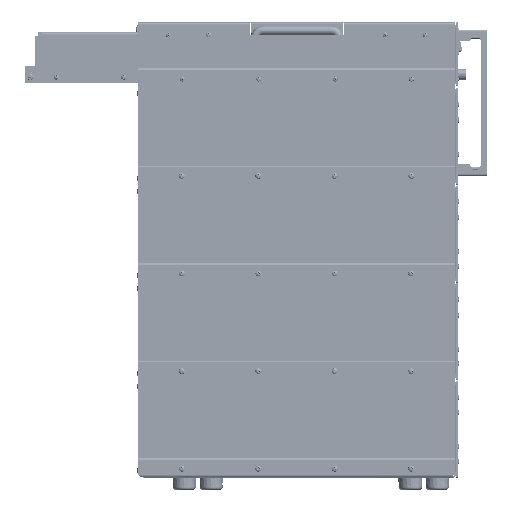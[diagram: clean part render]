
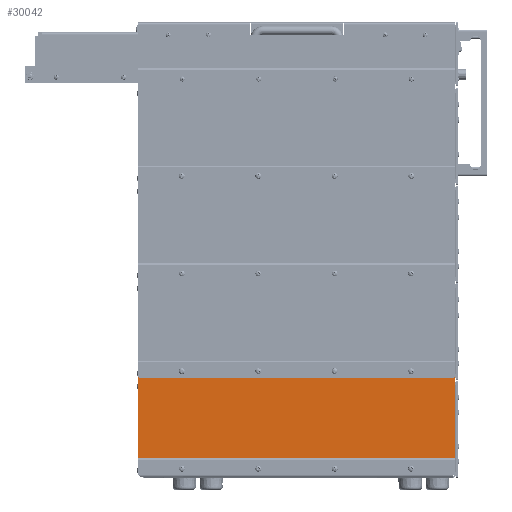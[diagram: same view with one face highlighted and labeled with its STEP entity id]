
A CAD part, left-side view. The second image highlights one B-rep face of the part: STEP entity #30042.
In plain terms, the highlighted planar face has unit normal (-1, 0, 0).
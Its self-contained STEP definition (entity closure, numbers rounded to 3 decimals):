
#30042=ADVANCED_FACE('',(#82869,#82870,#82871,#82872,#82873),#82874,.T.);
#82869=FACE_OUTER_BOUND('',#164825,.T.);
#82870=FACE_BOUND('',#164826,.T.);
#82871=FACE_BOUND('',#164827,.T.);
#82872=FACE_BOUND('',#164828,.T.);
#82873=FACE_BOUND('',#164829,.T.);
#82874=PLANE('',#164830);
#164825=EDGE_LOOP('',(#251841,#251842,#251843,#251844,#251845,#251846,#251847,#251848));
#164826=EDGE_LOOP('',(#251849,#251850));
#164827=EDGE_LOOP('',(#251851,#251852));
#164828=EDGE_LOOP('',(#251853,#251854));
#164829=EDGE_LOOP('',(#251855,#251856));
#164830=AXIS2_PLACEMENT_3D('',#251857,#251858,#251859);
#251841=ORIENTED_EDGE('',*,*,#451166,.F.);
#251842=ORIENTED_EDGE('',*,*,#451174,.T.);
#251843=ORIENTED_EDGE('',*,*,#451185,.F.);
#251844=ORIENTED_EDGE('',*,*,#451161,.F.);
#251845=ORIENTED_EDGE('',*,*,#451209,.T.);
#251846=ORIENTED_EDGE('',*,*,#451227,.F.);
#251847=ORIENTED_EDGE('',*,*,#451228,.F.);
#251848=ORIENTED_EDGE('',*,*,#451168,.F.);
#251849=ORIENTED_EDGE('',*,*,#451144,.T.);
#251850=ORIENTED_EDGE('',*,*,#451211,.T.);
#251851=ORIENTED_EDGE('',*,*,#451139,.T.);
#251852=ORIENTED_EDGE('',*,*,#451213,.T.);
#251853=ORIENTED_EDGE('',*,*,#451134,.T.);
#251854=ORIENTED_EDGE('',*,*,#451215,.T.);
#251855=ORIENTED_EDGE('',*,*,#451129,.T.);
#251856=ORIENTED_EDGE('',*,*,#451217,.T.);
#251857=CARTESIAN_POINT('',(546.234,604.229,-376.002));
#251858=DIRECTION('',(-1.0,0.,0.));
#251859=DIRECTION('',(0.,0.,1.0));
#451129=EDGE_CURVE('',#538321,#538318,#538322,.T.);
#451134=EDGE_CURVE('',#538330,#538327,#538331,.T.);
#451139=EDGE_CURVE('',#538339,#538336,#538340,.T.);
#451144=EDGE_CURVE('',#538348,#538345,#538349,.T.);
#451161=EDGE_CURVE('',#538377,#538373,#538379,.T.);
#451166=EDGE_CURVE('',#538386,#538382,#538388,.T.);
#451168=EDGE_CURVE('',#538382,#538390,#538391,.T.);
#451174=EDGE_CURVE('',#538386,#538398,#538400,.T.);
#451185=EDGE_CURVE('',#538373,#538398,#538413,.T.);
#451209=EDGE_CURVE('',#538377,#538443,#538445,.T.);
#451211=EDGE_CURVE('',#538345,#538348,#538447,.T.);
#451213=EDGE_CURVE('',#538336,#538339,#538449,.T.);
#451215=EDGE_CURVE('',#538327,#538330,#538451,.T.);
#451217=EDGE_CURVE('',#538318,#538321,#538453,.T.);
#451227=EDGE_CURVE('',#538463,#538443,#538464,.T.);
#451228=EDGE_CURVE('',#538390,#538463,#538465,.T.);
#538318=VERTEX_POINT('',#667914);
#538321=VERTEX_POINT('',#667918);
#538322=CIRCLE('',#667919,2.5);
#538327=VERTEX_POINT('',#667925);
#538330=VERTEX_POINT('',#667929);
#538331=CIRCLE('',#667930,2.5);
#538336=VERTEX_POINT('',#667936);
#538339=VERTEX_POINT('',#667940);
#538340=CIRCLE('',#667941,2.5);
#538345=VERTEX_POINT('',#667947);
#538348=VERTEX_POINT('',#667951);
#538349=CIRCLE('',#667952,2.5);
#538373=VERTEX_POINT('',#667981);
#538377=VERTEX_POINT('',#667986);
#538379=CIRCLE('',#667989,1.457);
#538382=VERTEX_POINT('',#667992);
#538386=VERTEX_POINT('',#667997);
#538388=CIRCLE('',#668000,2.538);
#538390=VERTEX_POINT('',#668002);
#538391=CIRCLE('',#668003,2.538);
#538398=VERTEX_POINT('',#668012);
#538400=LINE('',#668015,#668016);
#538413=CIRCLE('',#668032,1.457);
#538443=VERTEX_POINT('',#668071);
#538445=LINE('',#668074,#668075);
#538447=CIRCLE('',#668077,2.5);
#538449=CIRCLE('',#668079,2.5);
#538451=CIRCLE('',#668081,2.5);
#538453=CIRCLE('',#668083,2.5);
#538463=VERTEX_POINT('',#668093);
#538464=LINE('',#668094,#668095);
#538465=LINE('',#668096,#668097);
#667914=CARTESIAN_POINT('',(546.234,974.979,-320.577));
#667918=CARTESIAN_POINT('',(546.234,979.979,-320.577));
#667919=AXIS2_PLACEMENT_3D('',#834997,#834998,#834999);
#667925=CARTESIAN_POINT('',(546.234,870.559,-320.577));
#667929=CARTESIAN_POINT('',(546.234,875.559,-320.577));
#667930=AXIS2_PLACEMENT_3D('',#835005,#835006,#835007);
#667936=CARTESIAN_POINT('',(546.234,766.149,-320.577));
#667940=CARTESIAN_POINT('',(546.234,771.149,-320.577));
#667941=AXIS2_PLACEMENT_3D('',#835013,#835014,#835015);
#667947=CARTESIAN_POINT('',(546.234,661.729,-320.577));
#667951=CARTESIAN_POINT('',(546.234,666.729,-320.577));
#667952=AXIS2_PLACEMENT_3D('',#835021,#835022,#835023);
#667981=CARTESIAN_POINT('',(546.234,1037.053,-312.754));
#667986=CARTESIAN_POINT('',(546.234,1037.479,-313.784));
#667989=AXIS2_PLACEMENT_3D('',#835049,#835050,#835051);
#667992=CARTESIAN_POINT('',(546.234,604.973,-313.071));
#667997=CARTESIAN_POINT('',(546.234,606.767,-312.327));
#668000=AXIS2_PLACEMENT_3D('',#835057,#835058,#835059);
#668002=CARTESIAN_POINT('',(546.234,604.229,-314.865));
#668003=AXIS2_PLACEMENT_3D('',#835060,#835061,#835062);
#668012=CARTESIAN_POINT('',(546.234,1036.023,-312.327));
#668015=CARTESIAN_POINT('',(546.234,604.229,-312.327));
#668016=VECTOR('',#835069,1.0);
#668032=AXIS2_PLACEMENT_3D('',#835088,#835089,#835090);
#668071=CARTESIAN_POINT('',(546.234,1037.479,-439.677));
#668074=CARTESIAN_POINT('',(546.234,1037.479,-312.327));
#668075=VECTOR('',#835125,1.0);
#668077=AXIS2_PLACEMENT_3D('',#835126,#835127,#835128);
#668079=AXIS2_PLACEMENT_3D('',#835129,#835130,#835131);
#668081=AXIS2_PLACEMENT_3D('',#835132,#835133,#835134);
#668083=AXIS2_PLACEMENT_3D('',#835135,#835136,#835137);
#668093=CARTESIAN_POINT('',(546.234,604.229,-439.677));
#668094=CARTESIAN_POINT('',(546.234,604.229,-439.677));
#668095=VECTOR('',#835150,1.0);
#668096=CARTESIAN_POINT('',(546.234,604.229,-312.327));
#668097=VECTOR('',#835151,1.0);
#834997=CARTESIAN_POINT('',(546.234,977.479,-320.577));
#834998=DIRECTION('',(1.0,0.,0.));
#834999=DIRECTION('',(0.,-1.0,0.));
#835005=CARTESIAN_POINT('',(546.234,873.059,-320.577));
#835006=DIRECTION('',(1.0,0.,0.));
#835007=DIRECTION('',(0.,-1.0,0.));
#835013=CARTESIAN_POINT('',(546.234,768.649,-320.577));
#835014=DIRECTION('',(1.0,0.,0.));
#835015=DIRECTION('',(0.,-1.0,0.));
#835021=CARTESIAN_POINT('',(546.234,664.229,-320.577));
#835022=DIRECTION('',(1.0,0.,0.));
#835023=DIRECTION('',(0.,-1.0,0.));
#835049=CARTESIAN_POINT('',(546.234,1036.023,-313.784));
#835050=DIRECTION('',(1.0,0.,0.));
#835051=DIRECTION('',(0.,0.707,0.707));
#835057=CARTESIAN_POINT('',(546.234,606.767,-314.865));
#835058=DIRECTION('',(1.0,0.,0.));
#835059=DIRECTION('',(0.,-0.707,0.707));
#835060=CARTESIAN_POINT('',(546.234,606.767,-314.865));
#835061=DIRECTION('',(1.0,0.,0.));
#835062=DIRECTION('',(0.,-0.707,0.707));
#835069=DIRECTION('',(0.0,1.0,0.0));
#835088=CARTESIAN_POINT('',(546.234,1036.023,-313.784));
#835089=DIRECTION('',(1.0,0.,0.));
#835090=DIRECTION('',(0.,0.707,0.707));
#835125=DIRECTION('',(0.0,0.0,-1.0));
#835126=CARTESIAN_POINT('',(546.234,664.229,-320.577));
#835127=DIRECTION('',(1.0,0.,0.));
#835128=DIRECTION('',(0.,-1.0,0.));
#835129=CARTESIAN_POINT('',(546.234,768.649,-320.577));
#835130=DIRECTION('',(1.0,0.,0.));
#835131=DIRECTION('',(0.,-1.0,0.));
#835132=CARTESIAN_POINT('',(546.234,873.059,-320.577));
#835133=DIRECTION('',(1.0,0.,0.));
#835134=DIRECTION('',(0.,-1.0,0.));
#835135=CARTESIAN_POINT('',(546.234,977.479,-320.577));
#835136=DIRECTION('',(1.0,0.,0.));
#835137=DIRECTION('',(0.,-1.0,0.));
#835150=DIRECTION('',(0.0,1.0,0.0));
#835151=DIRECTION('',(0.0,0.0,-1.0));
